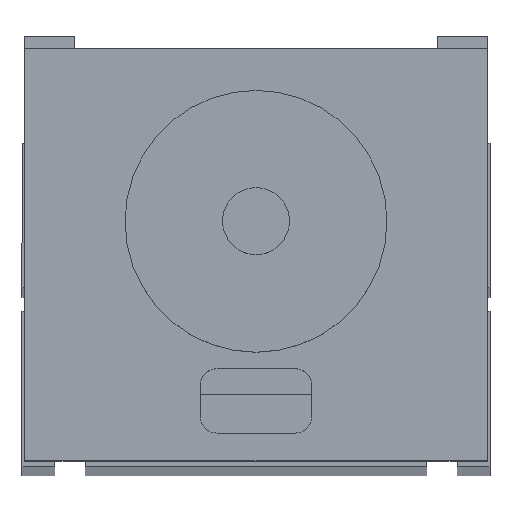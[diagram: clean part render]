
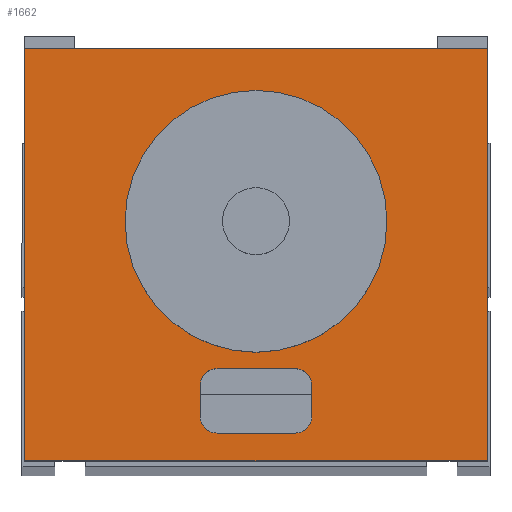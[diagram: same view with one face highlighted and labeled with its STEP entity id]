
A CAD part, top view. The second image highlights one B-rep face of the part: STEP entity #1662.
In plain terms, the highlighted planar face has unit normal (0, 0, 1).
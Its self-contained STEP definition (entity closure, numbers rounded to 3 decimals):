
#729 = VERTEX_POINT ( 'NONE', #4091 ) ;
#735 = VERTEX_POINT ( 'NONE', #4118 ) ;
#754 = EDGE_CURVE ( 'NONE', #729, #764, #4129, .T. ) ;
#764 = VERTEX_POINT ( 'NONE', #4152 ) ;
#861 = EDGE_CURVE ( 'NONE', #868, #735, #4294, .T. ) ;
#868 = VERTEX_POINT ( 'NONE', #4311 ) ;
#1618 = VERTEX_POINT ( 'NONE', #2395 ) ;
#1655 = VERTEX_POINT ( 'NONE', #2457 ) ;
#1657 = EDGE_LOOP ( 'NONE', ( #1738, #1744, #1760, #1748 ) ) ;
#1662 = ADVANCED_FACE ( 'NONE', ( #2452, #2455 ), #2436, .F. ) ;
#1664 = EDGE_CURVE ( 'NONE', #1655, #1618, #2443, .T. ) ;
#1723 = VERTEX_POINT ( 'NONE', #2515 ) ;
#1731 = EDGE_CURVE ( 'NONE', #1723, #729, #2524, .T. ) ;
#1738 = ORIENTED_EDGE ( 'NONE', *, *, #1731, .T. ) ;
#1739 = ORIENTED_EDGE ( 'NONE', *, *, #1664, .F. ) ;
#1742 = EDGE_CURVE ( 'NONE', #1794, #1747, #2511, .T. ) ;
#1744 = ORIENTED_EDGE ( 'NONE', *, *, #754, .T. ) ;
#1747 = VERTEX_POINT ( 'NONE', #2545 ) ;
#1748 = ORIENTED_EDGE ( 'NONE', *, *, #1764, .T. ) ;
#1753 = ORIENTED_EDGE ( 'NONE', *, *, #1770, .F. ) ;
#1754 = ORIENTED_EDGE ( 'NONE', *, *, #1742, .F. ) ;
#1757 = EDGE_CURVE ( 'NONE', #764, #1769, #2874, .T. ) ;
#1758 = EDGE_LOOP ( 'NONE', ( #1753, #1754, #1786, #1807, #1768, #1739, #1806, #1805 ) ) ;
#1760 = ORIENTED_EDGE ( 'NONE', *, *, #1757, .T. ) ;
#1764 = EDGE_CURVE ( 'NONE', #1769, #1723, #2840, .T. ) ;
#1768 = ORIENTED_EDGE ( 'NONE', *, *, #1785, .F. ) ;
#1769 = VERTEX_POINT ( 'NONE', #2881 ) ;
#1770 = EDGE_CURVE ( 'NONE', #1747, #868, #2832, .T. ) ;
#1785 = EDGE_CURVE ( 'NONE', #1618, #1845, #3009, .T. ) ;
#1786 = ORIENTED_EDGE ( 'NONE', *, *, #1815, .F. ) ;
#1794 = VERTEX_POINT ( 'NONE', #2958 ) ;
#1805 = ORIENTED_EDGE ( 'NONE', *, *, #861, .F. ) ;
#1806 = ORIENTED_EDGE ( 'NONE', *, *, #1812, .F. ) ;
#1807 = ORIENTED_EDGE ( 'NONE', *, *, #1826, .F. ) ;
#1812 = EDGE_CURVE ( 'NONE', #735, #1655, #3056, .T. ) ;
#1815 = EDGE_CURVE ( 'NONE', #1829, #1794, #3023, .T. ) ;
#1826 = EDGE_CURVE ( 'NONE', #1845, #1829, #3130, .T. ) ;
#1829 = VERTEX_POINT ( 'NONE', #3127 ) ;
#1845 = VERTEX_POINT ( 'NONE', #3088 ) ;
#2395 = CARTESIAN_POINT ( 'NONE',  ( 48.5, 5., 30. ) ) ;
#2436 = PLANE ( 'NONE',  #2453 ) ;
#2443 = LINE ( 'NONE', #2492, #2491 ) ;
#2452 = FACE_OUTER_BOUND ( 'NONE', #1657, .T. ) ;
#2453 = AXIS2_PLACEMENT_3D ( 'NONE', #2458, #2498, #2497 ) ;
#2455 = FACE_BOUND ( 'NONE', #1758, .T. ) ;
#2457 = CARTESIAN_POINT ( 'NONE',  ( 34.5, 5., 30. ) ) ;
#2458 = CARTESIAN_POINT ( 'NONE',  ( 0., 74., 30. ) ) ;
#2490 = DIRECTION ( 'NONE',  ( 1., 0., 0. ) ) ;
#2491 = VECTOR ( 'NONE', #2490, 1000. ) ;
#2492 = CARTESIAN_POINT ( 'NONE',  ( 34.5, 5., 30. ) ) ;
#2497 = DIRECTION ( 'NONE',  ( -1., 0., 0. ) ) ;
#2498 = DIRECTION ( 'NONE',  ( 0., 0., -1. ) ) ;
#2500 = DIRECTION ( 'NONE',  ( 0., -1., 0. ) ) ;
#2501 = CARTESIAN_POINT ( 'NONE',  ( 0., 0., 30. ) ) ;
#2511 = LINE ( 'NONE', #2550, #2548 ) ;
#2515 = CARTESIAN_POINT ( 'NONE',  ( 0., 74., 30. ) ) ;
#2524 = LINE ( 'NONE', #2501, #2570 ) ;
#2545 = CARTESIAN_POINT ( 'NONE',  ( 34.5, 16.6, 30. ) ) ;
#2547 = DIRECTION ( 'NONE',  ( -1., 0., 0. ) ) ;
#2548 = VECTOR ( 'NONE', #2547, 1000. ) ;
#2550 = CARTESIAN_POINT ( 'NONE',  ( 34.5, 16.6, 30. ) ) ;
#2570 = VECTOR ( 'NONE', #2500, 1000. ) ;
#2832 = CIRCLE ( 'NONE', #2939, 3. ) ;
#2834 = DIRECTION ( 'NONE',  ( -1., 0., 0. ) ) ;
#2835 = VECTOR ( 'NONE', #2834, 1000. ) ;
#2836 = CARTESIAN_POINT ( 'NONE',  ( 0., 74., 30. ) ) ;
#2840 = LINE ( 'NONE', #2836, #2835 ) ;
#2868 = DIRECTION ( 'NONE',  ( 0., 1., 0. ) ) ;
#2870 = VECTOR ( 'NONE', #2868, 1000. ) ;
#2872 = CARTESIAN_POINT ( 'NONE',  ( 83., 0., 30. ) ) ;
#2874 = LINE ( 'NONE', #2872, #2870 ) ;
#2881 = CARTESIAN_POINT ( 'NONE',  ( 83., 74., 30. ) ) ;
#2908 = AXIS2_PLACEMENT_3D ( 'NONE', #2985, #2983, #2981 ) ;
#2933 = DIRECTION ( 'NONE',  ( -1., 0., 0. ) ) ;
#2936 = DIRECTION ( 'NONE',  ( 0., 0., 1. ) ) ;
#2938 = CARTESIAN_POINT ( 'NONE',  ( 34.5, 13.6, 30. ) ) ;
#2939 = AXIS2_PLACEMENT_3D ( 'NONE', #2938, #2936, #2933 ) ;
#2957 = AXIS2_PLACEMENT_3D ( 'NONE', #3031, #3030, #3029 ) ;
#2958 = CARTESIAN_POINT ( 'NONE',  ( 48.5, 16.6, 30. ) ) ;
#2981 = DIRECTION ( 'NONE',  ( -1., 0., 0. ) ) ;
#2983 = DIRECTION ( 'NONE',  ( 0., 0., 1. ) ) ;
#2985 = CARTESIAN_POINT ( 'NONE',  ( 48.5, 8., 30. ) ) ;
#3009 = CIRCLE ( 'NONE', #2908, 3. ) ;
#3022 = AXIS2_PLACEMENT_3D ( 'NONE', #3135, #3133, #3131 ) ;
#3023 = CIRCLE ( 'NONE', #3022, 3. ) ;
#3029 = DIRECTION ( 'NONE',  ( 1., 0., 0. ) ) ;
#3030 = DIRECTION ( 'NONE',  ( 0., 0., 1. ) ) ;
#3031 = CARTESIAN_POINT ( 'NONE',  ( 34.5, 8., 30. ) ) ;
#3056 = CIRCLE ( 'NONE', #2957, 3. ) ;
#3088 = CARTESIAN_POINT ( 'NONE',  ( 51.5, 8., 30. ) ) ;
#3112 = DIRECTION ( 'NONE',  ( 0., 1., 0. ) ) ;
#3113 = VECTOR ( 'NONE', #3112, 1000. ) ;
#3114 = CARTESIAN_POINT ( 'NONE',  ( 51.5, 8., 30. ) ) ;
#3127 = CARTESIAN_POINT ( 'NONE',  ( 51.5, 13.6, 30. ) ) ;
#3130 = LINE ( 'NONE', #3114, #3113 ) ;
#3131 = DIRECTION ( 'NONE',  ( 1., 0., 0. ) ) ;
#3133 = DIRECTION ( 'NONE',  ( 0., 0., 1. ) ) ;
#3135 = CARTESIAN_POINT ( 'NONE',  ( 48.5, 13.6, 30. ) ) ;
#4091 = CARTESIAN_POINT ( 'NONE',  ( 0., 0., 30. ) ) ;
#4118 = CARTESIAN_POINT ( 'NONE',  ( 31.5, 8., 30. ) ) ;
#4129 = LINE ( 'NONE', #4159, #4158 ) ;
#4152 = CARTESIAN_POINT ( 'NONE',  ( 83., 0., 30. ) ) ;
#4153 = DIRECTION ( 'NONE',  ( 1., 0., 0. ) ) ;
#4158 = VECTOR ( 'NONE', #4153, 1000. ) ;
#4159 = CARTESIAN_POINT ( 'NONE',  ( 0., 0., 30. ) ) ;
#4294 = LINE ( 'NONE', #4331, #4330 ) ;
#4311 = CARTESIAN_POINT ( 'NONE',  ( 31.5, 13.6, 30. ) ) ;
#4325 = DIRECTION ( 'NONE',  ( 0., -1., 0. ) ) ;
#4330 = VECTOR ( 'NONE', #4325, 1000. ) ;
#4331 = CARTESIAN_POINT ( 'NONE',  ( 31.5, 8., 30. ) ) ;
